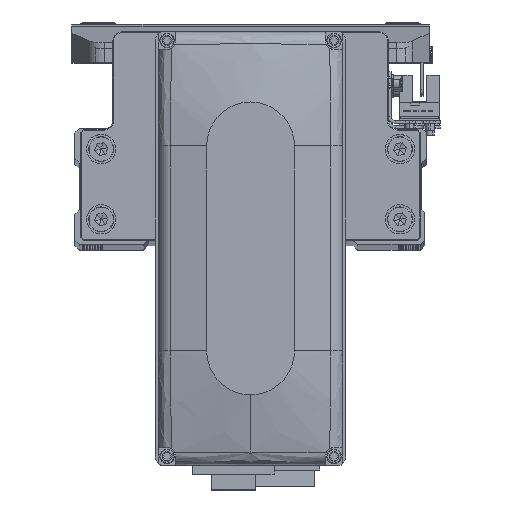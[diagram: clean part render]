
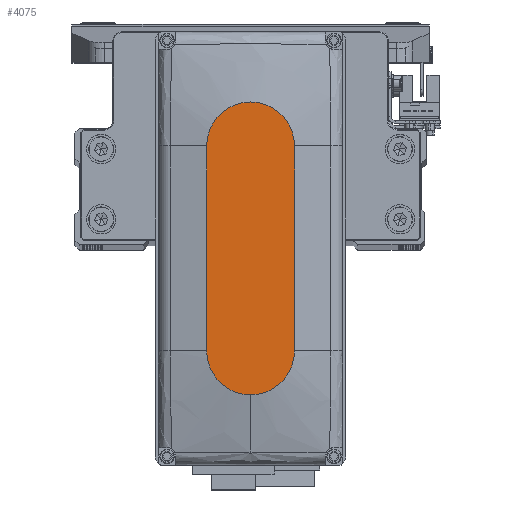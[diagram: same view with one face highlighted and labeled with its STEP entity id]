
A CAD part, top view. The second image highlights one B-rep face of the part: STEP entity #4075.
In plain terms, the highlighted planar face has unit normal (0, 0, 1).
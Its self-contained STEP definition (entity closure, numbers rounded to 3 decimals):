
#1821 = AXIS2_PLACEMENT_3D ( 'NONE', #11952, #26780, #41630 ) ;
#2414 = EDGE_CURVE ( 'NONE', #39957, #39187, #10239, .T. ) ;
#4075 = ADVANCED_FACE ( 'NONE', ( #31122 ), #46016, .T. ) ;
#5728 = EDGE_CURVE ( 'NONE', #39187, #43928, #47999, .T. ) ;
#5976 = EDGE_CURVE ( 'NONE', #14453, #15522, #40108, .T. ) ;
#6279 = VECTOR ( 'NONE', #21609, 1000. ) ;
#6667 = AXIS2_PLACEMENT_3D ( 'NONE', #12674, #27500, #42378 ) ;
#6812 = CARTESIAN_POINT ( 'NONE',  ( -35., 15., 35. ) ) ;
#10239 = LINE ( 'NONE', #25069, #31991 ) ;
#10648 = CARTESIAN_POINT ( 'NONE',  ( -35., -15., 35. ) ) ;
#11083 = EDGE_LOOP ( 'NONE', ( #39272, #38257, #43923, #13424, #35596 ) ) ;
#11547 = DIRECTION ( 'NONE',  ( 0., 0., 1. ) ) ;
#11952 = CARTESIAN_POINT ( 'NONE',  ( -35., 0., 35. ) ) ;
#12385 = DIRECTION ( 'NONE',  ( 0., 0., 1. ) ) ;
#12674 = CARTESIAN_POINT ( 'NONE',  ( 0., 0., 35. ) ) ;
#13424 = ORIENTED_EDGE ( 'NONE', *, *, #5728, .T. ) ;
#13743 = CIRCLE ( 'NONE', #19921, 15. ) ;
#14453 = VERTEX_POINT ( 'NONE', #33699 ) ;
#15522 = VERTEX_POINT ( 'NONE', #31775 ) ;
#19921 = AXIS2_PLACEMENT_3D ( 'NONE', #44892, #11547, #26371 ) ;
#21609 = DIRECTION ( 'NONE',  ( -1., 0., 0. ) ) ;
#22750 = CIRCLE ( 'NONE', #1821, 15. ) ;
#25069 = CARTESIAN_POINT ( 'NONE',  ( -35., -15., 35. ) ) ;
#26371 = DIRECTION ( 'NONE',  ( 1., 0., 0. ) ) ;
#26780 = DIRECTION ( 'NONE',  ( 0., 0., 1. ) ) ;
#26971 = AXIS2_PLACEMENT_3D ( 'NONE', #45737, #12385, #27207 ) ;
#27207 = DIRECTION ( 'NONE',  ( 1., 0., 0. ) ) ;
#27500 = DIRECTION ( 'NONE',  ( 0., 0., 1. ) ) ;
#28211 = EDGE_CURVE ( 'NONE', #15522, #39957, #22750, .T. ) ;
#31122 = FACE_OUTER_BOUND ( 'NONE', #11083, .T. ) ;
#31775 = CARTESIAN_POINT ( 'NONE',  ( -35., 15., 35. ) ) ;
#31991 = VECTOR ( 'NONE', #39904, 1000. ) ;
#33699 = CARTESIAN_POINT ( 'NONE',  ( 35., 15., 35. ) ) ;
#35596 = ORIENTED_EDGE ( 'NONE', *, *, #37249, .T. ) ;
#37249 = EDGE_CURVE ( 'NONE', #43928, #14453, #13743, .T. ) ;
#37534 = CARTESIAN_POINT ( 'NONE',  ( 35., -15., 35. ) ) ;
#38257 = ORIENTED_EDGE ( 'NONE', *, *, #28211, .T. ) ;
#39187 = VERTEX_POINT ( 'NONE', #37534 ) ;
#39272 = ORIENTED_EDGE ( 'NONE', *, *, #5976, .T. ) ;
#39904 = DIRECTION ( 'NONE',  ( 1., 0., 0. ) ) ;
#39957 = VERTEX_POINT ( 'NONE', #10648 ) ;
#40108 = LINE ( 'NONE', #6812, #6279 ) ;
#41630 = DIRECTION ( 'NONE',  ( 1., 0., 0. ) ) ;
#42378 = DIRECTION ( 'NONE',  ( 1., 0., 0. ) ) ;
#43311 = CARTESIAN_POINT ( 'NONE',  ( 50., 0., 35. ) ) ;
#43923 = ORIENTED_EDGE ( 'NONE', *, *, #2414, .T. ) ;
#43928 = VERTEX_POINT ( 'NONE', #43311 ) ;
#44892 = CARTESIAN_POINT ( 'NONE',  ( 35., 0., 35. ) ) ;
#45737 = CARTESIAN_POINT ( 'NONE',  ( 35., 0., 35. ) ) ;
#46016 = PLANE ( 'NONE',  #6667 ) ;
#47999 = CIRCLE ( 'NONE', #26971, 15. ) ;
